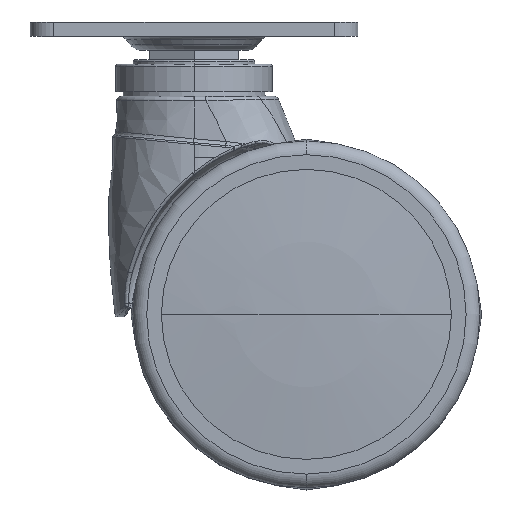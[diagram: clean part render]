
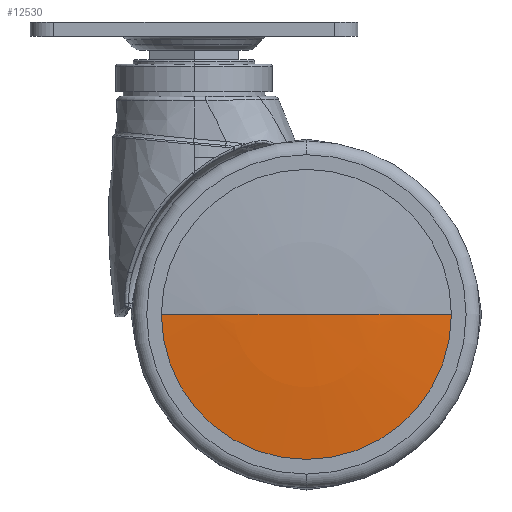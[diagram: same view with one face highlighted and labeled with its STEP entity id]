
A CAD part, top view. The second image highlights one B-rep face of the part: STEP entity #12530.
In plain terms, the highlighted spherical face has radius 321.083 mm.
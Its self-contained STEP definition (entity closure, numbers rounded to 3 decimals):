
#12405=CARTESIAN_POINT('',(-393.545,0.,0.));
#12406=DIRECTION('',(0.,0.,1.));
#12407=DIRECTION('',(1.,0.,0.));
#12408=AXIS2_PLACEMENT_3D('',#12405,#12406,#12407);
#12410=CARTESIAN_POINT('',(-73.962,0.,0.));
#12411=DIRECTION('',(-1.,0.,0.));
#12412=DIRECTION('',(0.,1.,0.));
#12413=AXIS2_PLACEMENT_3D('',#12410,#12411,#12412);
#12415=CARTESIAN_POINT('',(-73.962,0.,0.));
#12416=DIRECTION('',(-1.,0.,0.));
#12417=DIRECTION('',(0.,0.,-1.));
#12418=AXIS2_PLACEMENT_3D('',#12415,#12416,#12417);
#12420=CARTESIAN_POINT('',(-393.545,0.,0.));
#12421=DIRECTION('',(0.,0.,1.));
#12422=DIRECTION('',(0.995,-0.097,0.));
#12423=AXIS2_PLACEMENT_3D('',#12420,#12421,#12422);
#12439=CARTESIAN_POINT('',(-73.962,0.,
-31.));
#12440=VERTEX_POINT('',#12439);
#12441=CARTESIAN_POINT('',(-73.962,31.,
0.));
#12442=VERTEX_POINT('',#12441);
#12449=CARTESIAN_POINT('',(-73.962,-31.,
0.));
#12450=VERTEX_POINT('',#12449);
#12451=CARTESIAN_POINT('',(-72.462,0.,0.));
#12452=VERTEX_POINT('',#12451);
#12519=CARTESIAN_POINT('',(-393.545,0.,0.));
#12520=DIRECTION('',(-1.,0.,0.));
#12521=DIRECTION('',(0.,-1.,0.));
#12522=AXIS2_PLACEMENT_3D('',#12519,#12520,#12521);
#12523=SPHERICAL_SURFACE('',#12522,321.083);
#12524=ORIENTED_EDGE('',*,*,#12514,.T.);
#12525=ORIENTED_EDGE('',*,*,#12464,.T.);
#12526=ORIENTED_EDGE('',*,*,#12498,.T.);
#12527=ORIENTED_EDGE('',*,*,#12510,.T.);
#12528=EDGE_LOOP('',(#12524,#12525,#12526,#12527));
#12529=FACE_OUTER_BOUND('',#12528,.F.);
#12409=CIRCLE('',#12408,321.083);
#12414=CIRCLE('',#12413,31.);
#12419=CIRCLE('',#12418,31.);
#12424=CIRCLE('',#12423,321.083);
#12464=EDGE_CURVE('',#12442,#12440,#12414,.T.);
#12498=EDGE_CURVE('',#12440,#12450,#12419,.T.);
#12510=EDGE_CURVE('',#12450,#12452,#12424,.T.);
#12514=EDGE_CURVE('',#12452,#12442,#12409,.T.);
#12530=ADVANCED_FACE('',(#12529),#12523,.T.);
